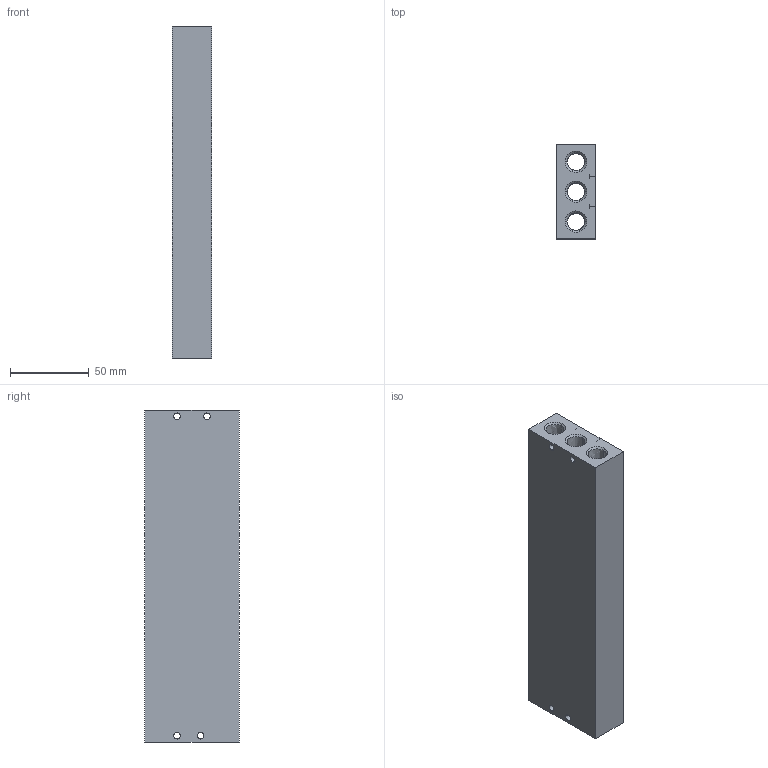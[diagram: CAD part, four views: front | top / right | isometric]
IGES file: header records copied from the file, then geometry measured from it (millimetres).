
Global section: file name: No Iges File Name specified; native system: AutoDesk Inventor R11.0; preprocessor: AutoDesk Inventor Iges Exporter R11.0; author: No Author specified; organization: No Organization specified; date: 20061201.115554; units: millimetre
Bounding box: 25 x 60 x 211 mm (x, y, z)
Volume: 231782.1 mm3; surface area: 67790 mm2
Topology: 1 solids, 1 shells, 335 faces, 889 edges, 529 vertices
Faces by surface type: bspline 323, revolution 6, plane 6
